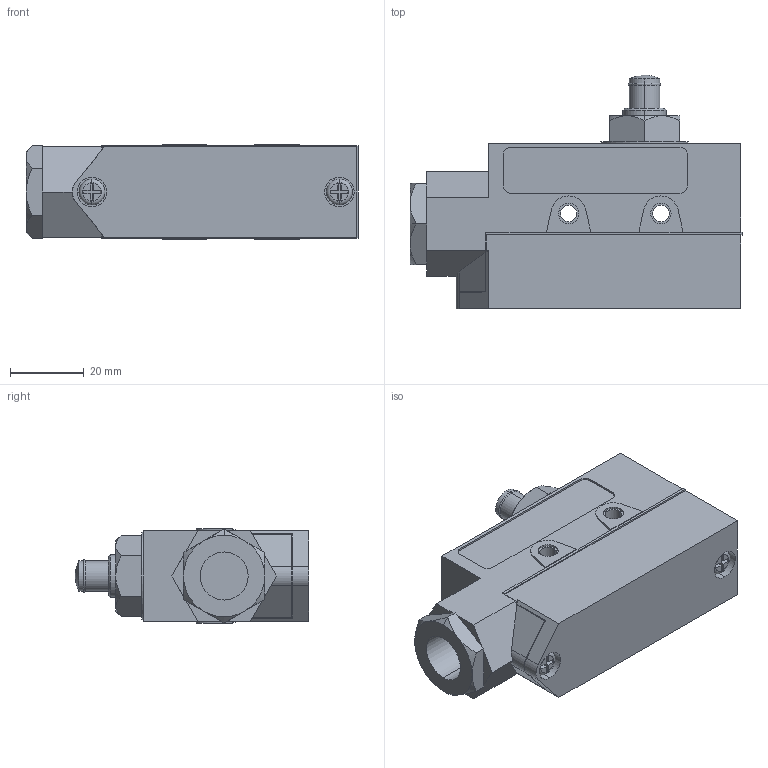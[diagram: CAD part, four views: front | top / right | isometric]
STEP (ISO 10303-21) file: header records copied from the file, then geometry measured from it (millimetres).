
FILE_DESCRIPTION (( 'STEP AP203' ), '1' );
FILE_NAME ('TZ-6001.STEP', '2019-03-27T12:58:00', ( '' ), ( '' ), 'SwSTEP 2.0', 'SolidWorks 2012', '' );
FILE_SCHEMA (( 'CONFIG_CONTROL_DESIGN' ));
Length unit declared in the file: millimetre
Products named in the file (1): TZ-6001
Bounding box: 89.9 x 63.3 x 25.5 mm (x, y, z)
Volume: 85820.5 mm3; surface area: 17240.3 mm2
Topology: 1 solids, 1 shells, 190 faces, 479 edges, 304 vertices
Faces by surface type: plane 125, cylinder 42, cone 16, torus 6, sphere 1
Entity records: 5852 total; most frequent: CARTESIAN_POINT 1235, ORIENTED_EDGE 952, DIRECTION 919, EDGE_CURVE 476, VECTOR 307, LINE 307, AXIS2_PLACEMENT_3D 306, VERTEX_POINT 302
